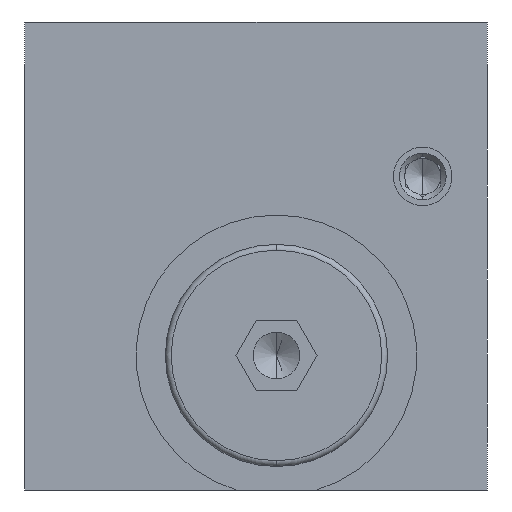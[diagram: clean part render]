
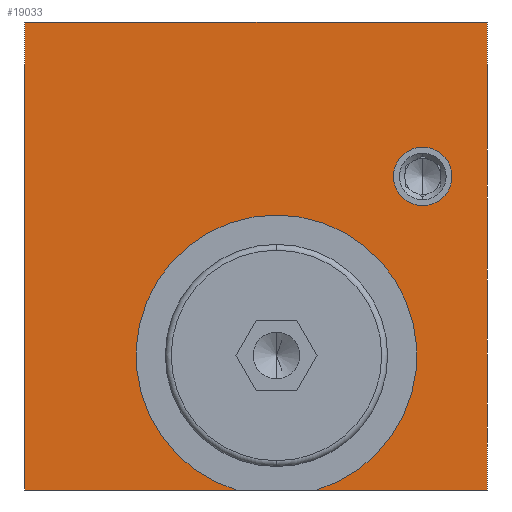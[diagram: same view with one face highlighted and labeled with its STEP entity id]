
A CAD part, left-side view. The second image highlights one B-rep face of the part: STEP entity #19033.
In plain terms, the highlighted planar face has unit normal (-1, 0, 0).
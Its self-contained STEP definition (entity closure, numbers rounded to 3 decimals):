
#174 = AXIS2_PLACEMENT_3D ( 'NONE', #11209, #24643, #13067 ) ;
#1345 = CARTESIAN_POINT ( 'NONE',  ( 0., -1.75, -8.5 ) ) ;
#1429 = EDGE_CURVE ( 'NONE', #11622, #11047, #15380, .T. ) ;
#1694 = PLANE ( 'NONE',  #18909 ) ;
#1781 = VECTOR ( 'NONE', #12634, 1000. ) ;
#1851 = CARTESIAN_POINT ( 'NONE',  ( 0., 19.75, 20. ) ) ;
#1853 = CARTESIAN_POINT ( 'NONE',  ( 0., 19.75, -20. ) ) ;
#2148 = ORIENTED_EDGE ( 'NONE', *, *, #24174, .F. ) ;
#2654 = EDGE_CURVE ( 'NONE', #6635, #5032, #13473, .T. ) ;
#2777 = DIRECTION ( 'NONE',  ( 0., 0., 1. ) ) ;
#3003 = CIRCLE ( 'NONE', #18763, 12. ) ;
#3102 = LINE ( 'NONE', #9225, #8060 ) ;
#3236 = DIRECTION ( 'NONE',  ( 0., 0., 1. ) ) ;
#3751 = DIRECTION ( 'NONE',  ( 0., 0., 1. ) ) ;
#3776 = CARTESIAN_POINT ( 'NONE',  ( 0., -19.75, 20. ) ) ;
#3859 = VERTEX_POINT ( 'NONE', #3776 ) ;
#4089 = EDGE_LOOP ( 'NONE', ( #11598, #15451 ) ) ;
#4206 = CARTESIAN_POINT ( 'NONE',  ( 0., -14.25, 6.8 ) ) ;
#4409 = DIRECTION ( 'NONE',  ( 0., -1., 0. ) ) ;
#4412 = FACE_OUTER_BOUND ( 'NONE', #8457, .T. ) ;
#5032 = VERTEX_POINT ( 'NONE', #10810 ) ;
#5078 = DIRECTION ( 'NONE',  ( 0., 0., 1. ) ) ;
#5154 = VECTOR ( 'NONE', #4409, 1000. ) ;
#5314 = ORIENTED_EDGE ( 'NONE', *, *, #15297, .F. ) ;
#5740 = LINE ( 'NONE', #19386, #5154 ) ;
#5948 = VERTEX_POINT ( 'NONE', #10677 ) ;
#6635 = VERTEX_POINT ( 'NONE', #15524 ) ;
#6898 = AXIS2_PLACEMENT_3D ( 'NONE', #4206, #16044, #2777 ) ;
#7019 = VERTEX_POINT ( 'NONE', #1851 ) ;
#7275 = VECTOR ( 'NONE', #11567, 1000. ) ;
#8060 = VECTOR ( 'NONE', #20549, 1000. ) ;
#8457 = EDGE_LOOP ( 'NONE', ( #2148, #5314, #24334, #8758, #23663, #15692, #20235 ) ) ;
#8636 = LINE ( 'NONE', #10960, #13559 ) ;
#8758 = ORIENTED_EDGE ( 'NONE', *, *, #20442, .F. ) ;
#8866 = CARTESIAN_POINT ( 'NONE',  ( 0., -1.75, -8.5 ) ) ;
#9225 = CARTESIAN_POINT ( 'NONE',  ( 0., -19.75, -20. ) ) ;
#9402 = FACE_BOUND ( 'NONE', #4089, .T. ) ;
#9695 = CARTESIAN_POINT ( 'NONE',  ( 0., -19.75, -20. ) ) ;
#10677 = CARTESIAN_POINT ( 'NONE',  ( 0., -5.178, -20. ) ) ;
#10810 = CARTESIAN_POINT ( 'NONE',  ( 0., -14.25, 9.3 ) ) ;
#10960 = CARTESIAN_POINT ( 'NONE',  ( 0., 19.75, 20. ) ) ;
#11047 = VERTEX_POINT ( 'NONE', #22145 ) ;
#11209 = CARTESIAN_POINT ( 'NONE',  ( 0., -14.25, 6.8 ) ) ;
#11567 = DIRECTION ( 'NONE',  ( 0., 1., 0. ) ) ;
#11598 = ORIENTED_EDGE ( 'NONE', *, *, #23356, .F. ) ;
#11622 = VERTEX_POINT ( 'NONE', #20168 ) ;
#12279 = LINE ( 'NONE', #14406, #1781 ) ;
#12634 = DIRECTION ( 'NONE',  ( 0., 0., -1. ) ) ;
#13067 = DIRECTION ( 'NONE',  ( 0., 0., 1. ) ) ;
#13473 = CIRCLE ( 'NONE', #6898, 2.5 ) ;
#13559 = VECTOR ( 'NONE', #22380, 1000. ) ;
#14345 = DIRECTION ( 'NONE',  ( -1., 0., 0. ) ) ;
#14406 = CARTESIAN_POINT ( 'NONE',  ( 0., -19.75, 20. ) ) ;
#14903 = DIRECTION ( 'NONE',  ( -1., 0., 0. ) ) ;
#15297 = EDGE_CURVE ( 'NONE', #21726, #5948, #3102, .T. ) ;
#15380 = CIRCLE ( 'NONE', #18234, 12. ) ;
#15451 = ORIENTED_EDGE ( 'NONE', *, *, #2654, .F. ) ;
#15524 = CARTESIAN_POINT ( 'NONE',  ( 0., -14.25, 4.3 ) ) ;
#15574 = VERTEX_POINT ( 'NONE', #17525 ) ;
#15692 = ORIENTED_EDGE ( 'NONE', *, *, #21721, .F. ) ;
#16044 = DIRECTION ( 'NONE',  ( -1., 0., 0. ) ) ;
#17525 = CARTESIAN_POINT ( 'NONE',  ( 0., 19.75, -20. ) ) ;
#18143 = DIRECTION ( 'NONE',  ( -1., 0., 0. ) ) ;
#18234 = AXIS2_PLACEMENT_3D ( 'NONE', #8866, #18143, #5078 ) ;
#18763 = AXIS2_PLACEMENT_3D ( 'NONE', #1345, #14345, #3236 ) ;
#18909 = AXIS2_PLACEMENT_3D ( 'NONE', #1853, #14903, #3751 ) ;
#19033 = ADVANCED_FACE ( 'NONE', ( #9402, #4412 ), #1694, .T. ) ;
#19131 = EDGE_CURVE ( 'NONE', #3859, #21726, #12279, .T. ) ;
#19386 = CARTESIAN_POINT ( 'NONE',  ( 0., -19.75, 20. ) ) ;
#20168 = CARTESIAN_POINT ( 'NONE',  ( 0., -1.75, 3.5 ) ) ;
#20235 = ORIENTED_EDGE ( 'NONE', *, *, #1429, .F. ) ;
#20442 = EDGE_CURVE ( 'NONE', #7019, #3859, #5740, .T. ) ;
#20549 = DIRECTION ( 'NONE',  ( 0., 1., 0. ) ) ;
#20731 = CIRCLE ( 'NONE', #174, 2.5 ) ;
#21721 = EDGE_CURVE ( 'NONE', #11047, #15574, #21804, .T. ) ;
#21726 = VERTEX_POINT ( 'NONE', #9695 ) ;
#21804 = LINE ( 'NONE', #23020, #7275 ) ;
#22145 = CARTESIAN_POINT ( 'NONE',  ( 0., 1.678, -20. ) ) ;
#22380 = DIRECTION ( 'NONE',  ( 0., 0., 1. ) ) ;
#23020 = CARTESIAN_POINT ( 'NONE',  ( 0., -19.75, -20. ) ) ;
#23316 = EDGE_CURVE ( 'NONE', #15574, #7019, #8636, .T. ) ;
#23356 = EDGE_CURVE ( 'NONE', #5032, #6635, #20731, .T. ) ;
#23663 = ORIENTED_EDGE ( 'NONE', *, *, #23316, .F. ) ;
#24174 = EDGE_CURVE ( 'NONE', #5948, #11622, #3003, .T. ) ;
#24334 = ORIENTED_EDGE ( 'NONE', *, *, #19131, .F. ) ;
#24643 = DIRECTION ( 'NONE',  ( -1., 0., 0. ) ) ;
